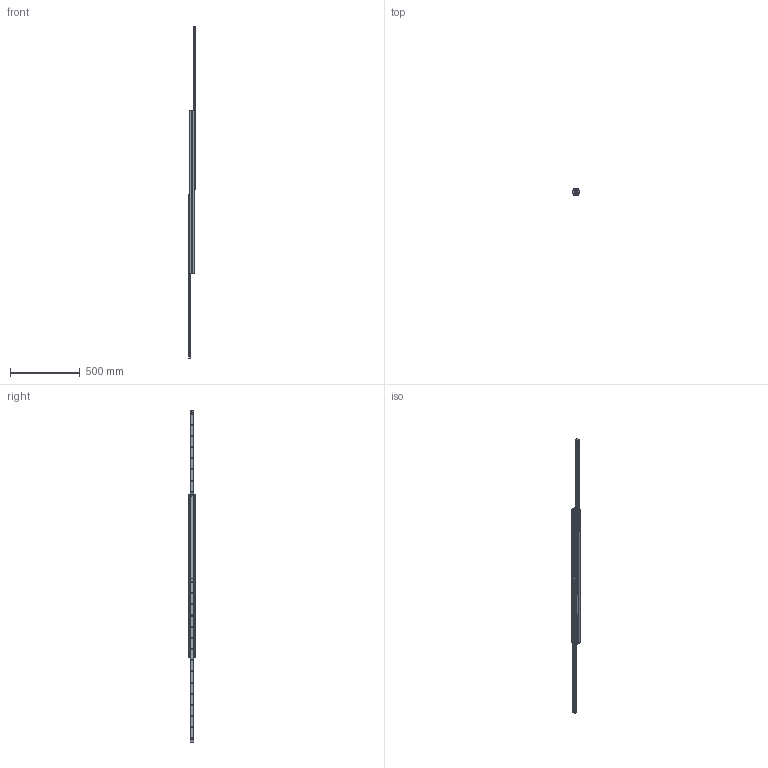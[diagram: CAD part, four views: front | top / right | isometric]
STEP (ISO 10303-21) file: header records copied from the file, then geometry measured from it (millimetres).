
FILE_DESCRIPTION( ( 'STEP AP214' ), '1' );
FILE_NAME( 'p:/temp/worker_94/temp/exporttempdir_5220_888_HaKeA/format_0/DEF43-11701206.stp', '2020-03-20T19:59:59', ( 'License CC BY-ND 4.0' ), ( 'CADENAS' ), ' ', 'PARTsolutions', ' ' );
FILE_SCHEMA( ( 'AUTOMOTIVE_DESIGN { 1 0 10303 214 1 1 1 1 }' ) );
Length unit declared in the file: millimetre
Products named in the file (4): DEF43-11701206; _43211170120612-gf; _4321117012061-ei; _43211170120611-gf
Assembly tree (4 placements, depth 2):
  DEF43-11701206
    _43211170120612-gf
    _4321117012061-ei  x2
    _43211170120611-gf
Bounding box: 44 x 43 x 2376 mm (x, y, z)
Volume: 1446253.4 mm3; surface area: 551640.7 mm2
Topology: 4 solids, 4 shells, 242 faces, 602 edges, 380 vertices
Faces by surface type: plane 102, cylinder 76, cone 64
Full cylindrical faces by diameter (mm): 4.134 x2, 6.647 x30, 7 x2
Entity records: 6984 total; most frequent: DIRECTION 968, CARTESIAN_POINT 879, ORIENTED_EDGE 766, AXIS2_PLACEMENT_3D 386, EDGE_CURVE 383, EDGE_LOOP 356, VERTEX_POINT 297, FACE_OUTER_BOUND 226
